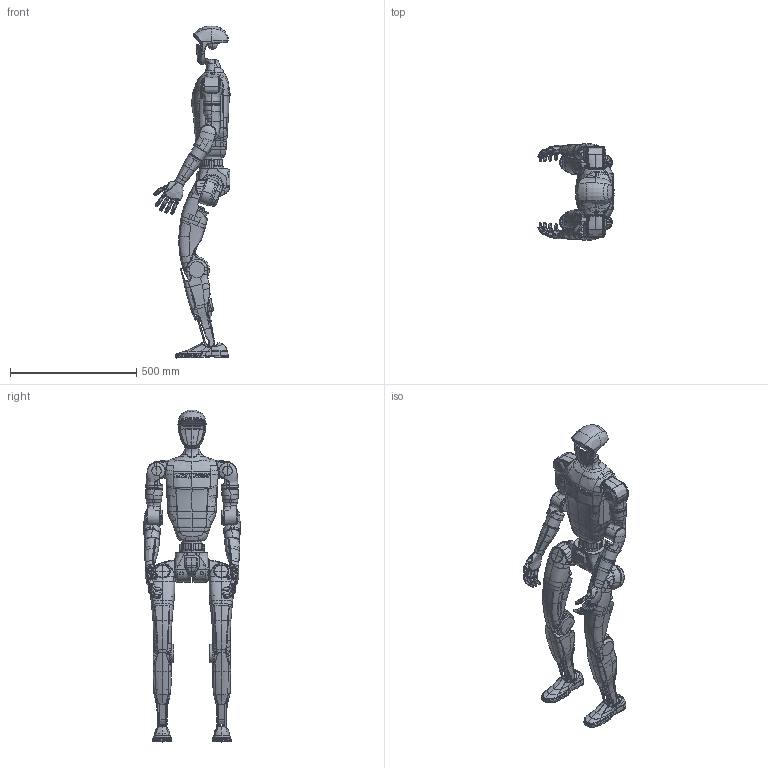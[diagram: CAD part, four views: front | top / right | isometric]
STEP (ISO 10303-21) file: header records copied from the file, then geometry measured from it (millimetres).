
FILE_DESCRIPTION(/* description */ (''),/* implementation_level */ '2;1');
FILE_NAME(/* name */ '5',/* time_stamp */ '2025-08-29T20:12:23+08:00',/* author */ (''),/* organization */ (''),/* preprocessor_version */ 'ST-DEVELOPER v16.5',/* originating_system */ '',/* authorisation */ '');
FILE_SCHEMA (('CONFIG_CONTROL_DESIGN'));
Products named in the file (5): Document; 图块 04; 图块 03; 图块 13; 图块 12
Assembly tree (4 placements, depth 2):
  Document
    图块 04
    图块 03
    图块 13
    图块 12
Bounding box: 301.08 x 384.08 x 1314.43 mm (x, y, z)
Volume: 8859806.4 mm3; surface area: 2089933.2 mm2
Topology: 72 solids, 88 shells, 6241 faces, 15731 edges, 9602 vertices
Faces by surface type: bspline 4788, plane 821, cylinder 632
Entity records: 926099 total; most frequent: CARTESIAN_POINT 828178, ORIENTED_EDGE 31263, EDGE_CURVE 15656, B_SPLINE_CURVE_WITH_KNOTS 13625, VERTEX_POINT 9594, EDGE_LOOP 6273, ADVANCED_FACE 6230, FACE_OUTER_BOUND 6230
